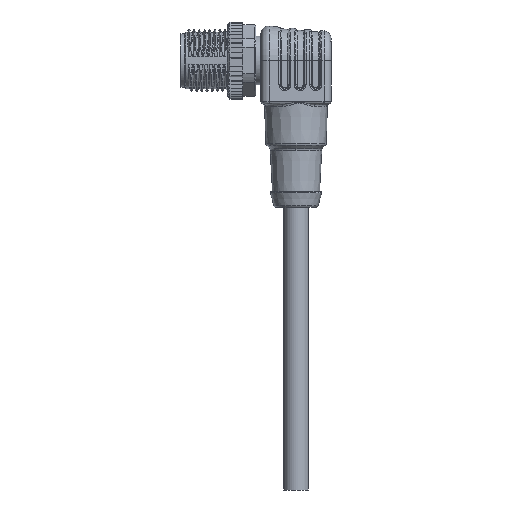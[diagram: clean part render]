
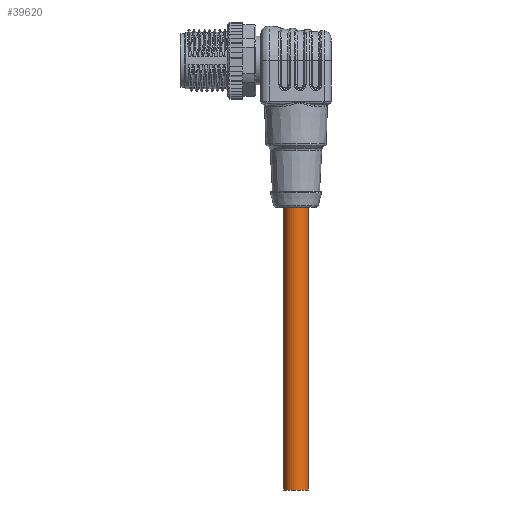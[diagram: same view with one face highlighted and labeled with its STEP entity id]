
A CAD part, front view. The second image highlights one B-rep face of the part: STEP entity #39620.
In plain terms, the highlighted cylindrical face has radius 2.4 mm (diameter 4.8 mm), a partial arc.
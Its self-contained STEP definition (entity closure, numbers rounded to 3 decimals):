
#392 = DIRECTION ( 'NONE',  ( 0., 0., -1. ) ) ;
#418 = CIRCLE ( 'NONE', #23315, 2.4 ) ;
#1832 = DIRECTION ( 'NONE',  ( 0., 0., 1. ) ) ;
#1980 = DIRECTION ( 'NONE',  ( -1., 0., 0. ) ) ;
#8301 = ORIENTED_EDGE ( 'NONE', *, *, #33516, .T. ) ;
#9254 = LINE ( 'NONE', #20203, #15976 ) ;
#9496 = AXIS2_PLACEMENT_3D ( 'NONE', #28808, #28664, #19245 ) ;
#11750 = VERTEX_POINT ( 'NONE', #39636 ) ;
#13591 = CARTESIAN_POINT ( 'NONE',  ( 4.951, 0.438, -28.175 ) ) ;
#14354 = CARTESIAN_POINT ( 'NONE',  ( 9.751, 0.438, -28.175 ) ) ;
#14656 = CARTESIAN_POINT ( 'NONE',  ( 7.351, 0.438, -28.175 ) ) ;
#15976 = VECTOR ( 'NONE', #392, 1000. ) ;
#16638 = VERTEX_POINT ( 'NONE', #14354 ) ;
#16964 = DIRECTION ( 'NONE',  ( 0., 0., -1. ) ) ;
#17726 = AXIS2_PLACEMENT_3D ( 'NONE', #14656, #27957, #18391 ) ;
#18391 = DIRECTION ( 'NONE',  ( -1., 0., 0. ) ) ;
#18405 = EDGE_LOOP ( 'NONE', ( #36650, #8301, #28449, #19377 ) ) ;
#19245 = DIRECTION ( 'NONE',  ( -1., 0., 0. ) ) ;
#19377 = ORIENTED_EDGE ( 'NONE', *, *, #19473, .T. ) ;
#19473 = EDGE_CURVE ( 'NONE', #11750, #34745, #418, .T. ) ;
#19619 = FACE_OUTER_BOUND ( 'NONE', #18405, .T. ) ;
#20203 = CARTESIAN_POINT ( 'NONE',  ( 4.951, 0.438, -32.95 ) ) ;
#21825 = CARTESIAN_POINT ( 'NONE',  ( 7.351, 0.438, -82.95 ) ) ;
#23315 = AXIS2_PLACEMENT_3D ( 'NONE', #21825, #1832, #1980 ) ;
#24320 = VERTEX_POINT ( 'NONE', #13591 ) ;
#26976 = CARTESIAN_POINT ( 'NONE',  ( 9.751, 0.438, -32.95 ) ) ;
#27957 = DIRECTION ( 'NONE',  ( 0., 0., -1. ) ) ;
#28449 = ORIENTED_EDGE ( 'NONE', *, *, #37850, .T. ) ;
#28664 = DIRECTION ( 'NONE',  ( 0., 0., -1. ) ) ;
#28808 = CARTESIAN_POINT ( 'NONE',  ( 7.351, 0.438, -32.95 ) ) ;
#33516 = EDGE_CURVE ( 'NONE', #16638, #24320, #37847, .T. ) ;
#34745 = VERTEX_POINT ( 'NONE', #35288 ) ;
#35288 = CARTESIAN_POINT ( 'NONE',  ( 9.751, 0.438, -82.95 ) ) ;
#36650 = ORIENTED_EDGE ( 'NONE', *, *, #39218, .F. ) ;
#37847 = CIRCLE ( 'NONE', #17726, 2.4 ) ;
#37850 = EDGE_CURVE ( 'NONE', #24320, #11750, #9254, .T. ) ;
#38778 = LINE ( 'NONE', #26976, #40360 ) ;
#39218 = EDGE_CURVE ( 'NONE', #16638, #34745, #38778, .T. ) ;
#39620 = ADVANCED_FACE ( 'NONE', ( #19619 ), #42869, .T. ) ;
#39636 = CARTESIAN_POINT ( 'NONE',  ( 4.951, 0.438, -82.95 ) ) ;
#40360 = VECTOR ( 'NONE', #16964, 1000. ) ;
#42869 = CYLINDRICAL_SURFACE ( 'NONE', #9496, 2.4 ) ;
